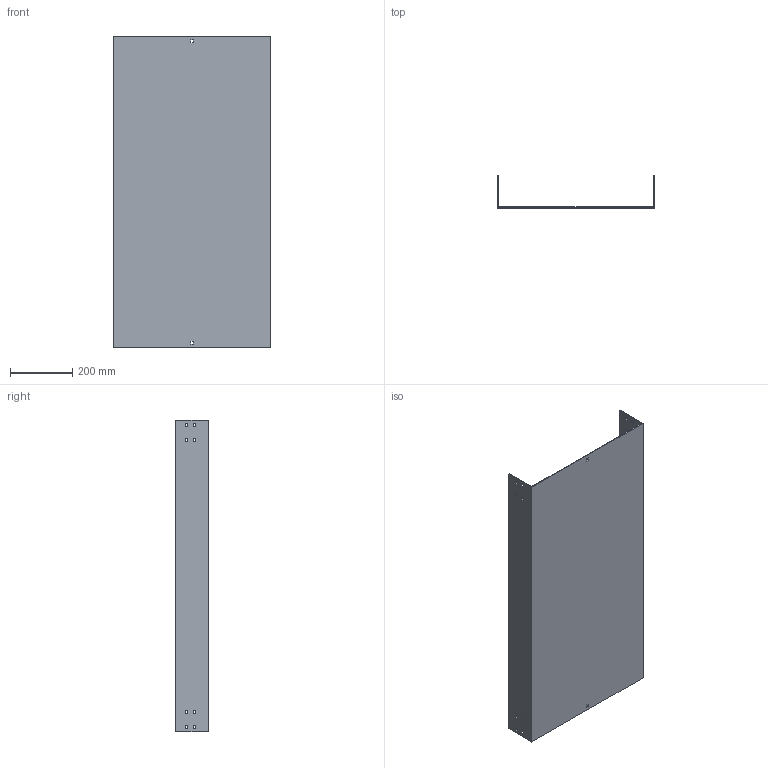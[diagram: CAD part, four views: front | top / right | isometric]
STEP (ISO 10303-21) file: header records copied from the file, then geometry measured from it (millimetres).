
FILE_DESCRIPTION (( 'STEP AP214' ), '1' );
FILE_NAME ('03F1D500.step', '2025-02-21T13:15:37', ( '' ), ( '' ), 'SwSTEP 2.0', 'SolidWorks 2023', '' );
FILE_SCHEMA (( 'AUTOMOTIVE_DESIGN' ));
Length unit declared in the file: millimetre
Products named in the file (1): 03F1D500
Bounding box: 504 x 104 x 1000 mm (x, y, z)
Volume: 2463170.5 mm3; surface area: 1421582 mm2
Topology: 1 solids, 1 shells, 82 faces, 240 edges, 160 vertices
Faces by surface type: plane 82
Entity records: 2759 total; most frequent: CARTESIAN_POINT 483, ORIENTED_EDGE 480, DIRECTION 406, EDGE_CURVE 240, LINE 240, VECTOR 240, VERTEX_POINT 160, EDGE_LOOP 118
